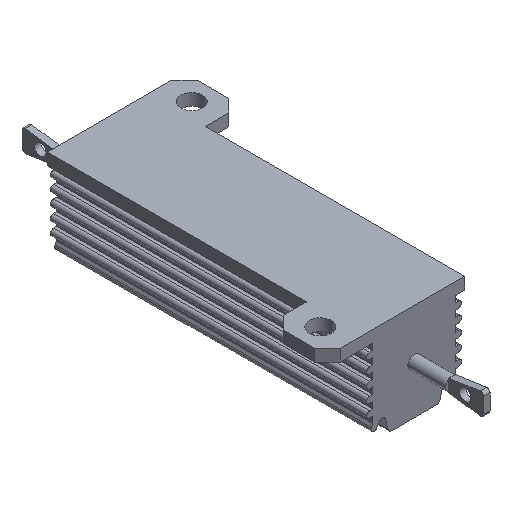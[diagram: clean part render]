
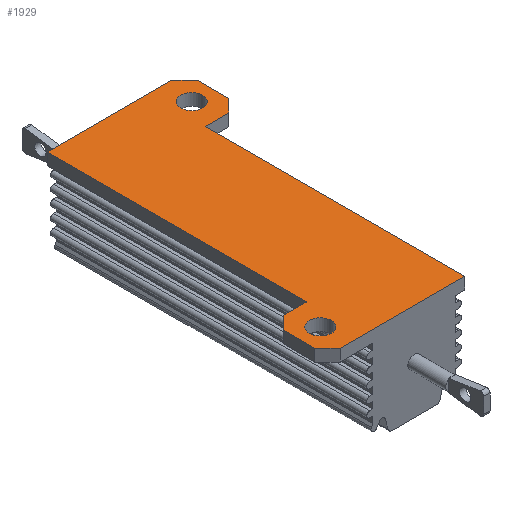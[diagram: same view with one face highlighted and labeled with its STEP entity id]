
A CAD part, isometric view. The second image highlights one B-rep face of the part: STEP entity #1929.
In plain terms, the highlighted planar face has unit normal (0, 0, 1).
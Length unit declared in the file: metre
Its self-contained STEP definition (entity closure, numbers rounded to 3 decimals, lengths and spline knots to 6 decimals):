
#188=LINE('',#3149,#400);
#192=LINE('',#3158,#404);
#194=LINE('',#3162,#406);
#195=LINE('',#3164,#407);
#196=LINE('',#3166,#408);
#197=LINE('',#3168,#409);
#198=LINE('',#3170,#410);
#199=LINE('',#3171,#411);
#200=LINE('',#3173,#412);
#201=LINE('',#3175,#413);
#202=LINE('',#3177,#414);
#203=LINE('',#3179,#415);
#400=VECTOR('',#2597,1.);
#404=VECTOR('',#2603,1.);
#406=VECTOR('',#2607,1.);
#407=VECTOR('',#2608,1.);
#408=VECTOR('',#2609,1.);
#409=VECTOR('',#2610,1.);
#410=VECTOR('',#2611,1.);
#411=VECTOR('',#2612,1.);
#412=VECTOR('',#2613,1.);
#413=VECTOR('',#2614,1.);
#414=VECTOR('',#2615,1.);
#415=VECTOR('',#2616,1.);
#499=PLANE('',#2106);
#874=ORIENTED_EDGE('',*,*,#1292,.F.);
#875=ORIENTED_EDGE('',*,*,#1294,.F.);
#876=ORIENTED_EDGE('',*,*,#1298,.T.);
#877=ORIENTED_EDGE('',*,*,#1304,.F.);
#878=ORIENTED_EDGE('',*,*,#1305,.F.);
#879=ORIENTED_EDGE('',*,*,#1306,.T.);
#880=ORIENTED_EDGE('',*,*,#1307,.F.);
#881=ORIENTED_EDGE('',*,*,#1308,.F.);
#882=ORIENTED_EDGE('',*,*,#1302,.F.);
#883=ORIENTED_EDGE('',*,*,#1309,.F.);
#884=ORIENTED_EDGE('',*,*,#1310,.T.);
#885=ORIENTED_EDGE('',*,*,#1311,.T.);
#886=ORIENTED_EDGE('',*,*,#1312,.F.);
#887=ORIENTED_EDGE('',*,*,#1313,.F.);
#1292=EDGE_CURVE('',#1488,#1488,#1574,.T.);
#1294=EDGE_CURVE('',#1490,#1490,#1576,.T.);
#1298=EDGE_CURVE('',#1495,#1494,#188,.T.);
#1302=EDGE_CURVE('',#1498,#1499,#192,.T.);
#1304=EDGE_CURVE('',#1500,#1494,#194,.T.);
#1305=EDGE_CURVE('',#1501,#1500,#195,.T.);
#1306=EDGE_CURVE('',#1501,#1502,#196,.T.);
#1307=EDGE_CURVE('',#1503,#1502,#197,.T.);
#1308=EDGE_CURVE('',#1499,#1503,#198,.T.);
#1309=EDGE_CURVE('',#1504,#1498,#199,.T.);
#1310=EDGE_CURVE('',#1504,#1505,#200,.T.);
#1311=EDGE_CURVE('',#1505,#1506,#201,.T.);
#1312=EDGE_CURVE('',#1507,#1506,#202,.T.);
#1313=EDGE_CURVE('',#1495,#1507,#203,.T.);
#1488=VERTEX_POINT('',#3135);
#1490=VERTEX_POINT('',#3140);
#1494=VERTEX_POINT('',#3148);
#1495=VERTEX_POINT('',#3150);
#1498=VERTEX_POINT('',#3157);
#1499=VERTEX_POINT('',#3159);
#1500=VERTEX_POINT('',#3163);
#1501=VERTEX_POINT('',#3165);
#1502=VERTEX_POINT('',#3167);
#1503=VERTEX_POINT('',#3169);
#1504=VERTEX_POINT('',#3172);
#1505=VERTEX_POINT('',#3174);
#1506=VERTEX_POINT('',#3176);
#1507=VERTEX_POINT('',#3178);
#1574=CIRCLE('',#2099,0.00175);
#1576=CIRCLE('',#2102,0.00175);
#1677=EDGE_LOOP('',(#874));
#1678=EDGE_LOOP('',(#875));
#1679=EDGE_LOOP('',(#876,#877,#878,#879,#880,#881,#882,#883,#884,#885,#886,
#887));
#1795=FACE_BOUND('',#1677,.T.);
#1796=FACE_BOUND('',#1678,.T.);
#1797=FACE_BOUND('',#1679,.T.);
#1929=ADVANCED_FACE('',(#1795,#1796,#1797),#499,.T.);
#2099=AXIS2_PLACEMENT_3D('',#3134,#2583,#2584);
#2102=AXIS2_PLACEMENT_3D('',#3139,#2589,#2590);
#2106=AXIS2_PLACEMENT_3D('',#3161,#2605,#2606);
#2583=DIRECTION('',(0.,0.,1.));
#2584=DIRECTION('',(0.,1.,0.));
#2589=DIRECTION('',(0.,0.,1.));
#2590=DIRECTION('',(0.,1.,0.));
#2597=DIRECTION('',(0.,1.,0.));
#2603=DIRECTION('',(0.,1.,0.));
#2605=DIRECTION('',(0.,0.,1.));
#2606=DIRECTION('',(1.,0.,0.));
#2607=DIRECTION('',(0.707,-0.707,0.));
#2608=DIRECTION('',(1.,0.,0.));
#2609=DIRECTION('',(0.,-1.,0.));
#2610=DIRECTION('',(1.,0.,0.));
#2611=DIRECTION('',(0.707,0.707,0.));
#2612=DIRECTION('',(-0.707,0.707,0.));
#2613=DIRECTION('',(1.,0.,0.));
#2614=DIRECTION('',(0.,1.,0.));
#2615=DIRECTION('',(-1.,0.,0.));
#2616=DIRECTION('',(-0.707,-0.707,0.));
#3134=CARTESIAN_POINT('',(0.0075,0.0455,0.0077));
#3135=CARTESIAN_POINT('',(0.0075,0.04725,0.0077));
#3139=CARTESIAN_POINT('',(-0.0132,0.0045,0.0077));
#3140=CARTESIAN_POINT('',(-0.0132,0.00625,0.0077));
#3148=CARTESIAN_POINT('',(0.01085,0.048,0.0077));
#3149=CARTESIAN_POINT('',(0.01085,0.043,0.0077));
#3150=CARTESIAN_POINT('',(0.01085,0.043,0.0077));
#3157=CARTESIAN_POINT('',(-0.01655,0.002,0.0077));
#3158=CARTESIAN_POINT('',(-0.01655,0.002,0.0077));
#3159=CARTESIAN_POINT('',(-0.01655,0.007,0.0077));
#3161=CARTESIAN_POINT('',(-0.01085,0.,0.0077));
#3162=CARTESIAN_POINT('',(0.00885,0.05,0.0077));
#3163=CARTESIAN_POINT('',(0.00885,0.05,0.0077));
#3164=CARTESIAN_POINT('',(-0.01085,0.05,0.0077));
#3165=CARTESIAN_POINT('',(-0.01085,0.05,0.0077));
#3166=CARTESIAN_POINT('',(-0.01085,0.05,0.0077));
#3167=CARTESIAN_POINT('',(-0.01085,0.009,0.0077));
#3168=CARTESIAN_POINT('',(-0.01455,0.009,0.0077));
#3169=CARTESIAN_POINT('',(-0.01455,0.009,0.0077));
#3170=CARTESIAN_POINT('',(-0.01655,0.007,0.0077));
#3171=CARTESIAN_POINT('',(-0.01455,0.,0.0077));
#3172=CARTESIAN_POINT('',(-0.01455,0.,0.0077));
#3173=CARTESIAN_POINT('',(-0.01455,0.,0.0077));
#3174=CARTESIAN_POINT('',(0.00515,0.,0.0077));
#3175=CARTESIAN_POINT('',(0.00515,0.,0.0077));
#3176=CARTESIAN_POINT('',(0.00515,0.041,0.0077));
#3177=CARTESIAN_POINT('',(0.00885,0.041,0.0077));
#3178=CARTESIAN_POINT('',(0.00885,0.041,0.0077));
#3179=CARTESIAN_POINT('',(0.01085,0.043,0.0077));
